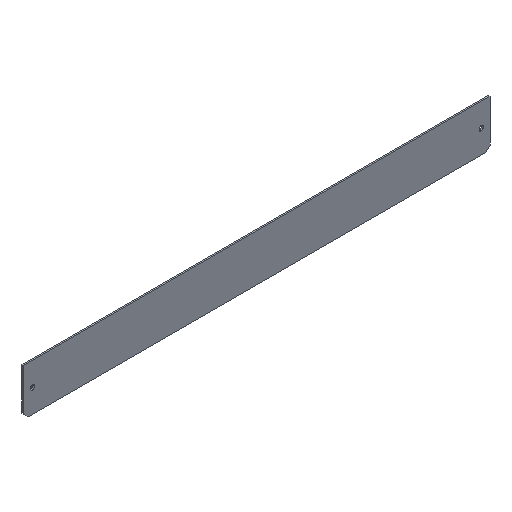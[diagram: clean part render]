
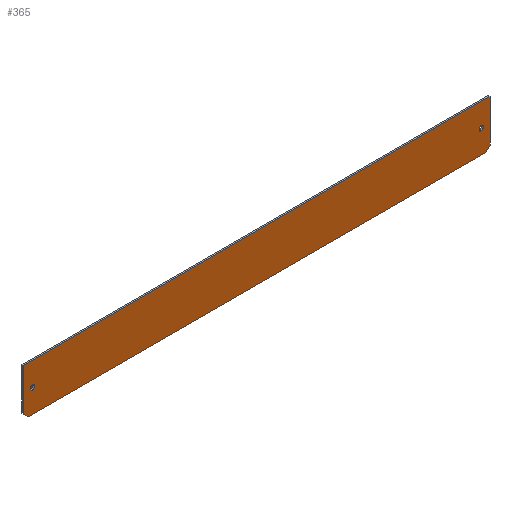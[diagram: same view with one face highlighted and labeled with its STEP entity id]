
A CAD part, isometric view. The second image highlights one B-rep face of the part: STEP entity #365.
In plain terms, the highlighted planar face has unit normal (0, -1, 0).
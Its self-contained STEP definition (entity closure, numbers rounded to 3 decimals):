
#14 = CARTESIAN_POINT ( 'NONE',  ( 106., 0., -10.6 ) ) ;
#18 = VERTEX_POINT ( 'NONE', #319 ) ;
#19 = DIRECTION ( 'NONE',  ( 0., 0., 1. ) ) ;
#24 = EDGE_LOOP ( 'NONE', ( #382, #201, #151, #411, #405, #57 ) ) ;
#26 = PLANE ( 'NONE',  #123 ) ;
#27 = ORIENTED_EDGE ( 'NONE', *, *, #39, .T. ) ;
#30 = VECTOR ( 'NONE', #139, 1000. ) ;
#32 = VECTOR ( 'NONE', #193, 1000. ) ;
#37 = CARTESIAN_POINT ( 'NONE',  ( -102., 0., 1. ) ) ;
#39 = EDGE_CURVE ( 'NONE', #358, #214, #171, .T. ) ;
#40 = DIRECTION ( 'NONE',  ( 0., 0., 1. ) ) ;
#48 = CIRCLE ( 'NONE', #344, 1. ) ;
#49 = CARTESIAN_POINT ( 'NONE',  ( -102., 0., 0. ) ) ;
#56 = AXIS2_PLACEMENT_3D ( 'NONE', #367, #228, #40 ) ;
#57 = ORIENTED_EDGE ( 'NONE', *, *, #271, .F. ) ;
#60 = ORIENTED_EDGE ( 'NONE', *, *, #286, .T. ) ;
#71 = CARTESIAN_POINT ( 'NONE',  ( 104., 0., -10.6 ) ) ;
#78 = CARTESIAN_POINT ( 'NONE',  ( -106., 0., 10.6 ) ) ;
#79 = VERTEX_POINT ( 'NONE', #200 ) ;
#82 = EDGE_CURVE ( 'NONE', #91, #182, #186, .T. ) ;
#84 = AXIS2_PLACEMENT_3D ( 'NONE', #357, #355, #129 ) ;
#91 = VERTEX_POINT ( 'NONE', #37 ) ;
#112 = AXIS2_PLACEMENT_3D ( 'NONE', #254, #388, #321 ) ;
#121 = CARTESIAN_POINT ( 'NONE',  ( 106., 0., -8.6 ) ) ;
#123 = AXIS2_PLACEMENT_3D ( 'NONE', #372, #280, #165 ) ;
#125 = ORIENTED_EDGE ( 'NONE', *, *, #397, .T. ) ;
#126 = CARTESIAN_POINT ( 'NONE',  ( -106., 0., 10.6 ) ) ;
#129 = DIRECTION ( 'NONE',  ( 0., 0., 1. ) ) ;
#132 = EDGE_CURVE ( 'NONE', #170, #185, #293, .T. ) ;
#139 = DIRECTION ( 'NONE',  ( 0., 0., 1. ) ) ;
#140 = CIRCLE ( 'NONE', #84, 1. ) ;
#147 = LINE ( 'NONE', #126, #315 ) ;
#150 = LINE ( 'NONE', #266, #210 ) ;
#151 = ORIENTED_EDGE ( 'NONE', *, *, #385, .F. ) ;
#165 = DIRECTION ( 'NONE',  ( 0., 0., 1. ) ) ;
#170 = VERTEX_POINT ( 'NONE', #173 ) ;
#171 = CIRCLE ( 'NONE', #112, 1. ) ;
#173 = CARTESIAN_POINT ( 'NONE',  ( -106., 0., -8.6 ) ) ;
#176 = CARTESIAN_POINT ( 'NONE',  ( -106., 0., -10.6 ) ) ;
#182 = VERTEX_POINT ( 'NONE', #234 ) ;
#185 = VERTEX_POINT ( 'NONE', #78 ) ;
#186 = CIRCLE ( 'NONE', #56, 1. ) ;
#188 = CARTESIAN_POINT ( 'NONE',  ( 102., 0., -1. ) ) ;
#193 = DIRECTION ( 'NONE',  ( -1., 0., 0. ) ) ;
#200 = CARTESIAN_POINT ( 'NONE',  ( -104., 0., -10.6 ) ) ;
#201 = ORIENTED_EDGE ( 'NONE', *, *, #260, .T. ) ;
#206 = DIRECTION ( 'NONE',  ( 0., 1., 0. ) ) ;
#210 = VECTOR ( 'NONE', #410, 1000. ) ;
#213 = DIRECTION ( 'NONE',  ( 0., 0., -1. ) ) ;
#214 = VERTEX_POINT ( 'NONE', #334 ) ;
#215 = FACE_BOUND ( 'NONE', #229, .T. ) ;
#216 = EDGE_CURVE ( 'NONE', #18, #336, #360, .T. ) ;
#225 = LINE ( 'NONE', #349, #32 ) ;
#228 = DIRECTION ( 'NONE',  ( 0., 1., 0. ) ) ;
#229 = EDGE_LOOP ( 'NONE', ( #375, #60 ) ) ;
#234 = CARTESIAN_POINT ( 'NONE',  ( -102., 0., -1. ) ) ;
#237 = FACE_OUTER_BOUND ( 'NONE', #24, .T. ) ;
#238 = CARTESIAN_POINT ( 'NONE',  ( 106., 0., 10.6 ) ) ;
#254 = CARTESIAN_POINT ( 'NONE',  ( 102., 0., 0. ) ) ;
#259 = DIRECTION ( 'NONE',  ( 0.707, 0., 0.707 ) ) ;
#260 = EDGE_CURVE ( 'NONE', #170, #79, #150, .T. ) ;
#266 = CARTESIAN_POINT ( 'NONE',  ( -106., 0., -8.6 ) ) ;
#267 = FACE_BOUND ( 'NONE', #270, .T. ) ;
#270 = EDGE_LOOP ( 'NONE', ( #125, #27 ) ) ;
#271 = EDGE_CURVE ( 'NONE', #185, #314, #147, .T. ) ;
#280 = DIRECTION ( 'NONE',  ( 0., 1., 0. ) ) ;
#286 = EDGE_CURVE ( 'NONE', #182, #91, #48, .T. ) ;
#290 = VECTOR ( 'NONE', #259, 1000. ) ;
#293 = LINE ( 'NONE', #176, #30 ) ;
#314 = VERTEX_POINT ( 'NONE', #238 ) ;
#315 = VECTOR ( 'NONE', #381, 1000. ) ;
#319 = CARTESIAN_POINT ( 'NONE',  ( 104., 0., -10.6 ) ) ;
#321 = DIRECTION ( 'NONE',  ( 0., 0., 1. ) ) ;
#334 = CARTESIAN_POINT ( 'NONE',  ( 102., 0., 1. ) ) ;
#336 = VERTEX_POINT ( 'NONE', #121 ) ;
#344 = AXIS2_PLACEMENT_3D ( 'NONE', #49, #206, #19 ) ;
#349 = CARTESIAN_POINT ( 'NONE',  ( -106., 0., -10.6 ) ) ;
#355 = DIRECTION ( 'NONE',  ( 0., 1., 0. ) ) ;
#357 = CARTESIAN_POINT ( 'NONE',  ( 102., 0., 0. ) ) ;
#358 = VERTEX_POINT ( 'NONE', #188 ) ;
#359 = EDGE_CURVE ( 'NONE', #314, #336, #379, .T. ) ;
#360 = LINE ( 'NONE', #71, #290 ) ;
#365 = ADVANCED_FACE ( 'NONE', ( #215, #267, #237 ), #26, .F. ) ;
#367 = CARTESIAN_POINT ( 'NONE',  ( -102., 0., 0. ) ) ;
#372 = CARTESIAN_POINT ( 'NONE',  ( 0., 0., 0. ) ) ;
#375 = ORIENTED_EDGE ( 'NONE', *, *, #82, .T. ) ;
#379 = LINE ( 'NONE', #14, #389 ) ;
#381 = DIRECTION ( 'NONE',  ( 1., 0., 0. ) ) ;
#382 = ORIENTED_EDGE ( 'NONE', *, *, #132, .F. ) ;
#385 = EDGE_CURVE ( 'NONE', #18, #79, #225, .T. ) ;
#388 = DIRECTION ( 'NONE',  ( 0., 1., 0. ) ) ;
#389 = VECTOR ( 'NONE', #213, 1000. ) ;
#397 = EDGE_CURVE ( 'NONE', #214, #358, #140, .T. ) ;
#405 = ORIENTED_EDGE ( 'NONE', *, *, #359, .F. ) ;
#410 = DIRECTION ( 'NONE',  ( 0.707, 0., -0.707 ) ) ;
#411 = ORIENTED_EDGE ( 'NONE', *, *, #216, .T. ) ;
